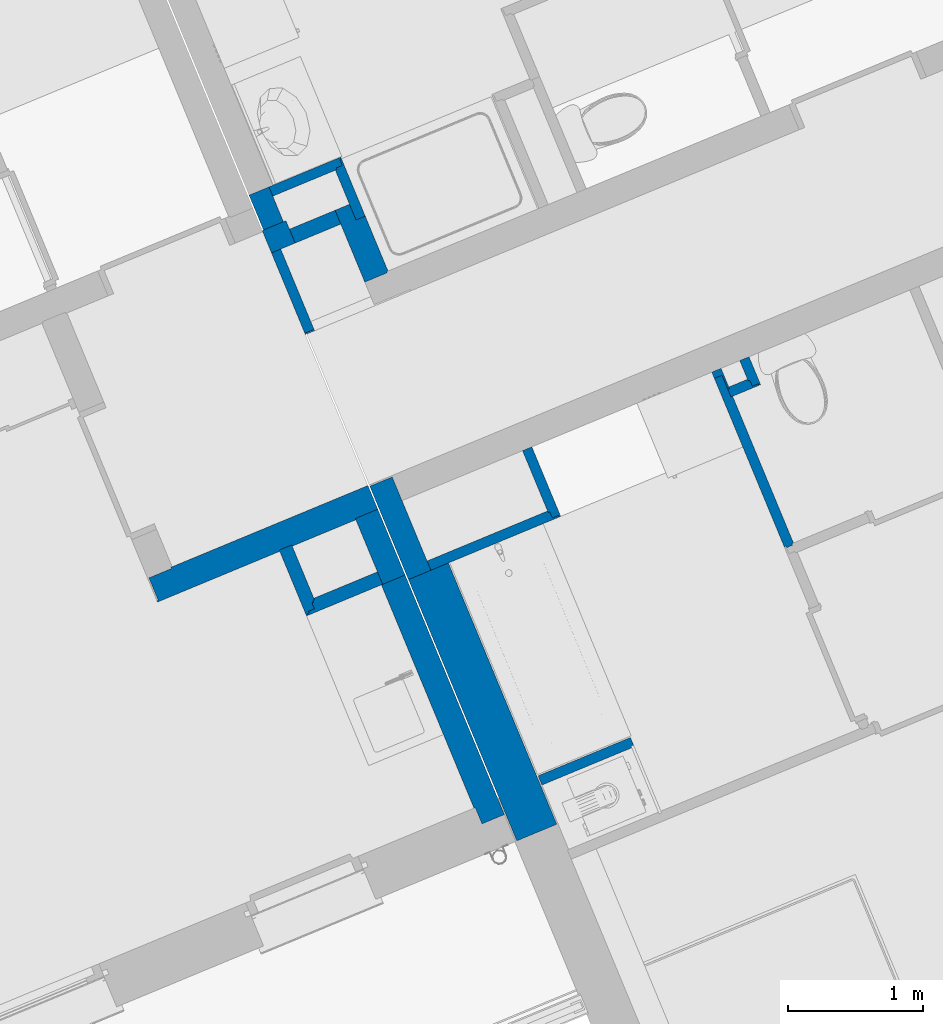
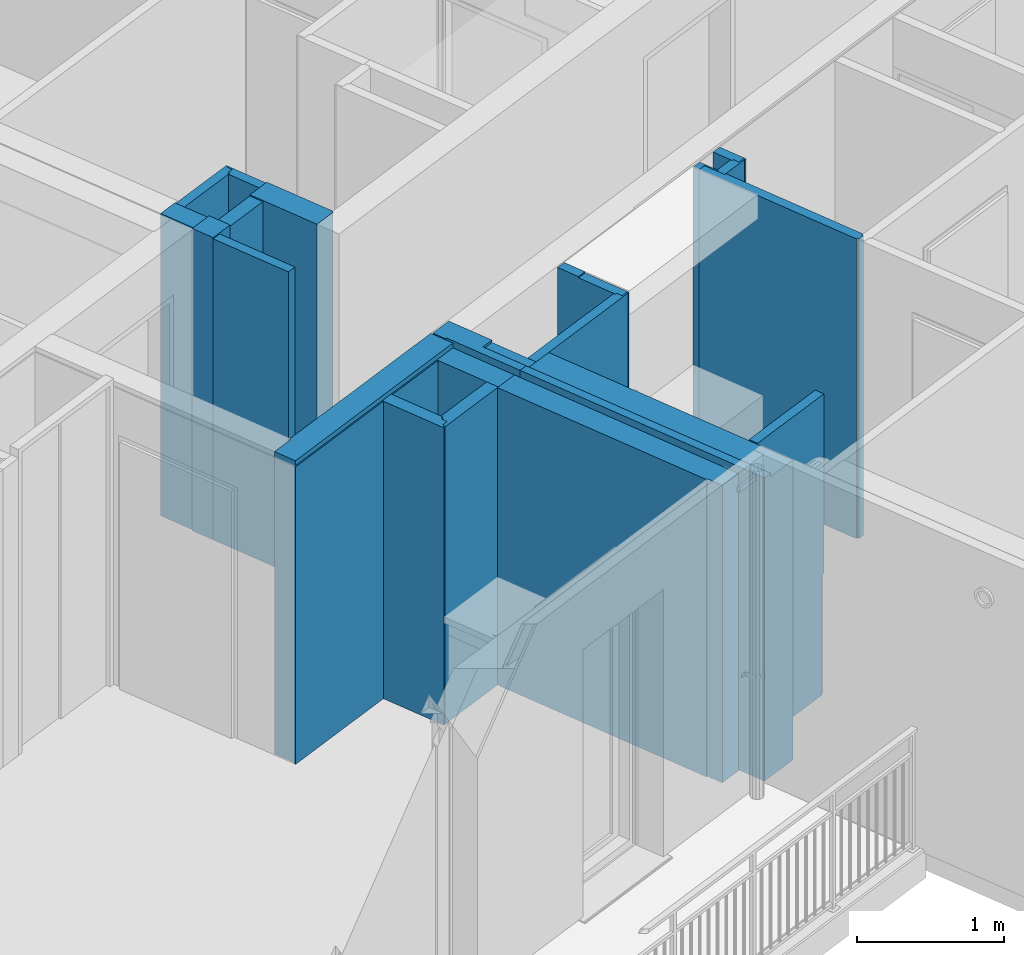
# One storey, part 41 of 90: 21 walls.
"""IFC2X3 building model written with IfcOpenShell, lengths in metres."""

from ifc_helpers import new_model, entity, si_unit, converted_unit, derived_unit, money_unit, direction, frame, origin_with_axes, place, context, subcontext, project, spatial, faceted_brep, material, material_list, type_object, element, save


model = new_model("IFC2X3")

# Units and contexts
model_context = context("Model", 3, precision=1e-05, world=origin_with_axes(), true_north=direction((0.0, 1.0)))
body_context = subcontext(model_context, "Body", "Model", "MODEL_VIEW")
ifc_project = project(units=[si_unit("LENGTHUNIT", "METRE"), si_unit("AREAUNIT", "SQUARE_METRE"), si_unit("VOLUMEUNIT", "CUBIC_METRE"), converted_unit("PLANEANGLEUNIT", "DEGREE", entity("IfcPlaneAngleMeasure", 0.0174532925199), si_unit("PLANEANGLEUNIT", "RADIAN"), dimensions=[0, 0, 0, 0, 0, 0, 0]), si_unit("SOLIDANGLEUNIT", "STERADIAN"), money_unit("EUR"), converted_unit("TIMEUNIT", "Year", entity("IfcTimeMeasure", 31556926.0), si_unit("TIMEUNIT", "SECOND"), dimensions=[0, 0, 1, 0, 0, 0, 0]), si_unit("MASSUNIT", "GRAM", prefix="KILO"), si_unit("THERMODYNAMICTEMPERATUREUNIT", "DEGREE_CELSIUS"), si_unit("LUMINOUSINTENSITYUNIT", "LUMEN"), si_unit("ENERGYUNIT", "JOULE", prefix="MEGA"), derived_unit("THERMALCONDUCTANCEUNIT", [(si_unit("POWERUNIT", "WATT"), 1), (si_unit("LENGTHUNIT", "METRE"), -1), (si_unit("THERMODYNAMICTEMPERATUREUNIT", "KELVIN"), -1)]), derived_unit("SPECIFICHEATCAPACITYUNIT", [(si_unit("ENERGYUNIT", "JOULE"), 1), (si_unit("MASSUNIT", "GRAM", prefix="KILO"), -1), (si_unit("THERMODYNAMICTEMPERATUREUNIT", "KELVIN"), -1)]), derived_unit("MASSDENSITYUNIT", [(si_unit("MASSUNIT", "GRAM", prefix="KILO"), 1), (si_unit("VOLUMEUNIT", "CUBIC_METRE"), -1)])], contexts=[model_context])

# Site, building, storey
site_placement = place(None, origin_with_axes())
site = spatial("IfcSite", under=ifc_project, at=site_placement, Name="Site", CompositionType="ELEMENT")
building_placement = place(site_placement, origin_with_axes())
building = spatial("IfcBuilding", under=site, at=building_placement, Name="Bâtiment", CompositionType="ELEMENT")
storey_placement = place(building_placement, frame((0.0, 0.0, 2.72), z_axis=(0.0, 0.0, 1.0), x_axis=(1.0, 0.0, 0.0)))
storey = spatial("IfcBuildingStorey", under=building, at=storey_placement, Name="R+1", CompositionType="ELEMENT", Elevation=2.72)

# Walls
ifc_material_1 = material(Name="Cloison - Carreaux de plâtre")
wall_type_1 = type_object("IfcWallType", Name="Cloison - Carreaux de plâtre 74", PredefinedType="USERDEFINED")
wall_1_placement = place(storey_placement, frame((-23.1735961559, -20.9432584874, 0.0), z_axis=(0.0, 0.0, 1.0), x_axis=(-0.383112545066, 0.923701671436, 0.0)))
element("IfcWall", 1, at=wall_1_placement, inside=storey, type_object=wall_type_1, material=ifc_material_1, Name="Carreaux de plâtre 8cm", ObjectType="PARTITIONING", context=body_context, shape_type="Brep", body=[
    faceted_brep([(0.0, -0.074, 0.15), (0.0, 0.0, 0.15), (-0.01, 0.0, 0.15), (-0.00999999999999, -0.074, 0.15), (0.0, 0.0, 2.5), (0.0, -0.074, 2.5), (0.644635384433, 0.0, 2.5), (0.644635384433, 0.0, 0.0), (-0.01, 0.0, 0.0), (-0.00999999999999, -0.074, 0.0), (0.644635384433, -0.074, 0.0), (0.644635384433, -0.074, 2.5)], [[[0, 1, 2, 3]], [[4, 1, 0, 5]], [[6, 7, 8, 2, 1, 4]], [[2, 8, 9, 3]], [[5, 0, 3, 9, 10, 11]], [[11, 6, 4, 5]], [[10, 7, 6, 11]], [[7, 10, 9, 8]]]),
])
ifc_material_2 = material(Name="Finition int - Plaque de plâtre")
ifc_material_3 = material(Name="Isolation - Laine de roche")
ifc_material_list_1 = material_list([ifc_material_2, ifc_material_3, ifc_material_2])
wall_type_2 = type_object("IfcWallType", Name="3 - Cloison 72mm Placostil 74", PredefinedType="USERDEFINED")
wall_2_placement = place(storey_placement, frame((-20.0063506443, -21.4094138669, 0.0), z_axis=(0.0, 0.0, 1.0), x_axis=(0.383112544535, -0.923701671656, 0.0)))
element("IfcWall", 2, at=wall_2_placement, inside=storey, type_object=wall_type_2, material=ifc_material_list_1, Name="Cloison Placostil 72/48", ObjectType="PARTITIONING", context=body_context, shape_type="Brep", body=[
    faceted_brep([(0.0, 0.0, 2.49), (1.17600000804, 0.0, 2.49), (1.17600000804, 0.0, 0.0), (0.0, 0.0, 0.0), (1.17600000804, -0.013, 2.49), (0.0, -0.013, 2.49), (1.17600000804, -0.013, 0.0), (0.0, -0.013, 0.0)], [[[0, 1, 2, 3]], [[4, 1, 0, 5]], [[1, 4, 6, 2]], [[6, 7, 3, 2]], [[5, 0, 3, 7]], [[4, 5, 7, 6]]]),
    faceted_brep([(-0.174, -0.013, 2.49), (1.18900000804, -0.013, 2.49), (1.18900000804, -0.013, 0.0), (-0.174, -0.013, 0.0), (1.18900000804, -0.060999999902, 2.49), (-0.174, -0.061, 2.49), (1.18900000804, -0.060999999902, 0.0), (-0.174, -0.061, 0.0)], [[[0, 1, 2, 3]], [[4, 1, 0, 5]], [[1, 4, 6, 2]], [[3, 2, 6, 7]], [[5, 0, 3, 7]], [[4, 5, 7, 6]]]),
    faceted_brep([(-0.174, -0.061, 2.49), (1.17600000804, -0.061, 2.49), (1.17600000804, -0.061, 0.0), (-0.174, -0.061, 0.0), (1.17600000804, -0.0739999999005, 2.49), (-0.174, -0.074, 2.49), (1.17600000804, -0.0739999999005, 0.0), (-0.174, -0.074, 0.0)], [[[0, 1, 2, 3]], [[4, 1, 0, 5]], [[1, 4, 6, 2]], [[3, 2, 6, 7]], [[5, 0, 3, 7]], [[4, 5, 7, 6]]]),
])
wall_3_placement = place(storey_placement, frame((-21.4466565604, -24.2195203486, 0.0), z_axis=(0.0, 0.0, 1.0), x_axis=(0.923701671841, 0.383112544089, 0.0)))
element("IfcWall", 3, at=wall_3_placement, inside=storey, type_object=wall_type_2, material=ifc_material_list_1, Name="Cloison Placostil 72/48", ObjectType="PARTITIONING", context=body_context, shape_type="Brep", body=[
    faceted_brep([(0.740000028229, 4.47035297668e-09, 2.49), (0.740000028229, -0.0130000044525, 2.49), (0.740000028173, -0.013, 0.0), (0.740000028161, 0.0, 0.0), (0.740000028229, 4.47035297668e-09, 1.0), (0.0, -0.013, 2.49), (0.0, 0.0, 2.49), (0.0, -0.013, 0.0), (0.0, 0.0, 0.0)], [[[0, 1, 2, 3, 4]], [[5, 1, 0, 6]], [[1, 5, 7, 2]], [[8, 3, 2, 7]], [[6, 0, 4, 3, 8]], [[5, 6, 8, 7]]]),
    faceted_brep([(0.740000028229, -0.0130000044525, 2.49), (0.740000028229, -0.0609999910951, 2.49), (0.740000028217, -0.061, 0.0), (0.740000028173, -0.013, 0.0), (0.0, -0.061, 2.49), (0.0, -0.013, 2.49), (0.0, -0.061, 0.0), (0.0, -0.013, 0.0)], [[[0, 1, 2, 3]], [[4, 1, 0, 5]], [[1, 4, 6, 2]], [[7, 3, 2, 6]], [[5, 0, 3, 7]], [[4, 5, 7, 6]]]),
    faceted_brep([(0.740000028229, -0.0609999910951, 2.49), (0.740000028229, -0.074, 2.49), (0.740000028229, -0.074, 1.0), (0.740000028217, -0.0609999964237, 1.0), (0.0, -0.074, 2.49), (0.0, -0.061, 2.49), (0.0, -0.074, 0.0), (0.720000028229, -0.074, 0.0), (0.720000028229, -0.074, 1.0), (0.720000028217, -0.0609999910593, 1.0), (0.720000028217, -0.061, 0.0), (0.0, -0.061, 0.0)], [[[0, 1, 2, 3]], [[4, 1, 0, 5]], [[1, 4, 6, 7, 8, 2]], [[9, 3, 2, 8]], [[5, 0, 3, 9, 10, 11]], [[4, 5, 11, 6]], [[11, 10, 7, 6]], [[9, 8, 7, 10]]]),
])
ifc_material_4 = material(Name="Finition int - Enduit plâtre")
ifc_material_5 = material(Name="Béton")
ifc_material_list_2 = material_list([ifc_material_4, ifc_material_5, ifc_material_4])
wall_type_3 = type_object("IfcWallType", Name="2 - Murs Béton 18 + Enduit 2 Faces 200", PredefinedType="USERDEFINED")
wall_4_placement = place(storey_placement, frame((-24.1618163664, -22.6847293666, 0.0), z_axis=(0.0, 0.0, 1.0), x_axis=(0.923701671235, 0.383112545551, 0.0)))
element("IfcWall", 4, at=wall_4_placement, inside=storey, type_object=wall_type_3, material=ifc_material_list_2, Name="M_Ext-008", ObjectType="SOLIDWALL", context=body_context, shape_type="Brep", body=[
    faceted_brep([(1.5800000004, 0.0, 2.51), (1.58000000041, 0.01, 2.51), (0.0, 0.01, 2.51), (0.0, 0.0, 2.51), (1.5800000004, 0.0, 0.0), (1.58000000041, 0.01, 0.0), (0.0, 0.01, 0.0), (0.0, 0.0, 0.0)], [[[0, 1, 2, 3]], [[1, 0, 4, 5]], [[1, 5, 6, 2]], [[7, 3, 2, 6]], [[4, 0, 3, 7]], [[5, 4, 7, 6]]]),
    faceted_brep([(1.58000000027, -0.18, 2.51), (1.5800000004, 0.0, 2.51), (-0.18, 0.0, 2.51), (-0.180000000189, -0.18, 2.51), (1.58000000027, -0.18, 0.0), (1.5800000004, 0.0, 0.0), (-0.18, 0.0, 0.0), (-0.180000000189, -0.18, 0.0)], [[[0, 1, 2, 3]], [[1, 0, 4, 5]], [[1, 5, 6, 2]], [[7, 3, 2, 6]], [[4, 0, 3, 7]], [[5, 4, 7, 6]]]),
    faceted_brep([(0.809999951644, -0.19, 0.0), (0.809999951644, -0.19, 0.02), (1.40000000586, -0.19, 0.02), (1.40000000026, -0.19, 2.47), (-0.190000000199, -0.19, 2.47), (-0.190000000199, -0.19, 0.0), (0.810000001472, -0.179999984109, 0.0), (0.810000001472, -0.179999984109, 0.02), (1.400000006, -0.179999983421, 0.02), (1.40000000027, -0.180000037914, 2.47), (-0.179999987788, -0.179999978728, 2.47), (-0.190000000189, -0.18, 2.47), (-0.190000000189, -0.18, 0.0)], [[[0, 1, 2, 3, 4, 5]], [[1, 0, 6, 7]], [[8, 2, 1, 7]], [[2, 8, 9, 3]], [[4, 3, 9, 10, 11]], [[4, 11, 12, 5]], [[6, 0, 5, 12]], [[7, 6, 12, 11, 10, 9, 8]]]),
])
wall_type_4 = type_object("IfcWallType", Name="3 - Cloison Gaine Technique 72mm 74", PredefinedType="USERDEFINED")
wall_5_placement = place(storey_placement, frame((-19.7994086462, -21.323583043, 0.0), z_axis=(0.0, 0.0, 1.0), x_axis=(-0.923701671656, -0.383112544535, 0.0)))
element("IfcWall", 5, at=wall_5_placement, inside=storey, type_object=wall_type_4, material=ifc_material_list_1, Name="Cloison Placostil 72/48", ObjectType="PARTITIONING", context=body_context, shape_type="Brep", body=[
    faceted_brep([(0.013, -0.013, 2.49), (0.013, 0.0, 2.49), (0.013, 0.0, 0.0), (0.013, -0.013, 0.0), (0.237035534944, 0.0, 2.49), (0.237035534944, -0.013, 2.49), (0.237035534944, 0.0, 0.0), (0.237035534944, -0.013, 0.0)], [[[0, 1, 2, 3]], [[4, 1, 0, 5]], [[1, 4, 6, 2]], [[2, 6, 7, 3]], [[5, 0, 3, 7]], [[4, 5, 7, 6]]]),
    faceted_brep([(0.061, -0.061, 2.49), (0.061, -0.013, 2.49), (0.061, -0.013, 0.0), (0.061, -0.061, 0.0), (0.237035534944, -0.013, 2.49), (0.237035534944, -0.061, 2.49), (0.237035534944, -0.013, 0.0), (0.237035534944, -0.061, 0.0)], [[[0, 1, 2, 3]], [[4, 1, 0, 5]], [[1, 4, 6, 2]], [[2, 6, 7, 3]], [[5, 0, 3, 7]], [[4, 5, 7, 6]]]),
    faceted_brep([(0.074, -0.074, 2.49), (0.074, -0.061, 2.49), (0.074, -0.061, 0.0), (0.074, -0.074, 0.0), (0.224035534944, -0.061, 2.49), (0.224035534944, -0.074, 2.49), (0.224035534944, -0.061, 0.0), (0.224035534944, -0.074, 0.0)], [[[0, 1, 2, 3]], [[4, 1, 0, 5]], [[1, 4, 6, 2]], [[2, 6, 7, 3]], [[5, 0, 3, 7]], [[4, 5, 7, 6]]]),
])
wall_6_placement = place(storey_placement, frame((-23.5869322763, -19.9205844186, 0.0), z_axis=(0.0, 0.0, 1.0), x_axis=(0.923701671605, 0.383112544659, 0.0)))
element("IfcWall", 6, at=wall_6_placement, inside=storey, type_object=wall_type_4, material=ifc_material_list_1, Name="Cloison Placostil 72/48", ObjectType="PARTITIONING", context=body_context, shape_type="Brep", body=[
    faceted_brep([(0.735366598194, 0.0, 2.5), (0.16, -2.26545893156e-10, 2.5), (0.160000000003, -0.013, 2.5), (0.735366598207, -0.013, 2.5), (0.735366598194, 0.0, 0.0), (0.16, -2.26545893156e-10, 0.0), (0.160000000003, -0.013, 0.0), (0.735366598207, -0.013, 0.0)], [[[0, 1, 2, 3]], [[4, 5, 1, 0]], [[5, 6, 2, 1]], [[3, 2, 6, 7]], [[4, 0, 3, 7]], [[7, 6, 5, 4]]]),
    faceted_brep([(0.722366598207, -0.013, 2.5), (0.160000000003, -0.013, 2.5), (0.160000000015, -0.061, 2.5), (0.722366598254, -0.061, 2.5), (0.722366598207, -0.013, 0.0), (0.160000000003, -0.013, 0.0), (0.160000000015, -0.061, 0.0), (0.722366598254, -0.061, 0.0)], [[[0, 1, 2, 3]], [[4, 5, 1, 0]], [[5, 6, 2, 1]], [[3, 2, 6, 7]], [[4, 0, 3, 7]], [[7, 6, 5, 4]]]),
    faceted_brep([(0.674366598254, -0.061, 2.5), (0.160000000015, -0.061, 2.5), (0.160000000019, -0.074, 2.5), (0.674366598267, -0.074, 2.5), (0.674366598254, -0.061, 0.0), (0.160000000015, -0.061, 0.0), (0.160000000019, -0.074, 0.0), (0.674366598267, -0.074, 0.0)], [[[0, 1, 2, 3]], [[4, 5, 1, 0]], [[5, 6, 2, 1]], [[3, 2, 6, 7]], [[4, 0, 3, 7]], [[7, 6, 5, 4]]]),
])
wall_7_placement = place(storey_placement, frame((-20.0921678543, -21.2025046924, 0.0), z_axis=(0.0, 0.0, 1.0), x_axis=(0.383112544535, -0.923701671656, 0.0)))
element("IfcWall", 7, at=wall_7_placement, inside=storey, type_object=wall_type_4, material=ifc_material_list_1, Name="Cloison Placostil 72/48", ObjectType="PARTITIONING", context=body_context, shape_type="Brep", body=[
    faceted_brep([(0.0, 0.0, 2.49), (0.163, 0.0, 2.49), (0.163, 0.0, 0.0), (0.0, 0.0, 0.0), (0.163, -0.013, 2.49), (0.0, -0.013, 2.49), (0.163, -0.013, 0.0), (0.0, -0.013, 0.0)], [[[0, 1, 2, 3]], [[4, 1, 0, 5]], [[1, 4, 6, 2]], [[3, 2, 6, 7]], [[5, 0, 3, 7]], [[4, 5, 7, 6]]]),
    faceted_brep([(0.0, -0.013, 2.49), (0.05, -0.013, 2.49), (0.05, -0.013, 0.0), (0.0, -0.013, 0.0), (0.05, -0.061, 2.49), (0.0, -0.061, 2.49), (0.05, -0.061, 0.0), (0.0, -0.061, 0.0)], [[[0, 1, 2, 3]], [[4, 1, 0, 5]], [[1, 4, 6, 2]], [[3, 2, 6, 7]], [[5, 0, 3, 7]], [[4, 5, 7, 6]]]),
    faceted_brep([(0.0, -0.061, 2.49), (0.05, -0.061, 2.49), (0.05, -0.061, 0.0), (0.0, -0.061, 0.0), (0.05, -0.074, 2.49), (0.0, -0.074, 2.49), (0.05, -0.074, 0.0), (0.0, -0.074, 0.0)], [[[0, 1, 2, 3]], [[4, 1, 0, 5]], [[1, 4, 6, 2]], [[3, 2, 6, 7]], [[5, 0, 3, 7]], [[4, 5, 7, 6]]]),
])
wall_8_placement = place(storey_placement, frame((-22.240334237, -22.6974573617, 0.0), z_axis=(0.0, 0.0, 1.0), x_axis=(0.923701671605, 0.383112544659, 0.0)))
element("IfcWall", 8, at=wall_8_placement, inside=storey, type_object=wall_type_4, material=ifc_material_list_1, Name="Cloison Placostil 72/48", ObjectType="PARTITIONING", context=body_context, shape_type="Brep", body=[
    faceted_brep([(0.96600000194, 0.074, 2.49), (0.966000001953, 0.061, 2.49), (0.966000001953, 0.061, 0.0), (0.96600000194, 0.074, 0.0), (0.0, 0.061, 2.49), (0.0, 0.074, 2.49), (0.0, 0.061, 0.0), (0.0, 0.074, 0.0)], [[[0, 1, 2, 3]], [[4, 1, 0, 5]], [[1, 4, 6, 2]], [[3, 2, 6, 7]], [[5, 0, 3, 7]], [[4, 5, 7, 6]]]),
    faceted_brep([(0.979000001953, 0.061, 2.49), (0.979000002, 0.013, 2.49), (0.979000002, 0.013, 0.0), (0.979000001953, 0.061, 0.0), (0.0, 0.013, 2.49), (0.0, 0.061, 2.49), (0.0, 0.013, 0.0), (0.0, 0.061, 0.0)], [[[0, 1, 2, 3]], [[4, 1, 0, 5]], [[1, 4, 6, 2]], [[3, 2, 6, 7]], [[5, 0, 3, 7]], [[4, 5, 7, 6]]]),
    faceted_brep([(1.027000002, 0.013, 2.49), (1.02700000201, 0.0, 2.49), (1.02700000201, 0.0, 0.0), (1.027000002, 0.013, 0.0), (0.0, 0.0, 2.49), (0.0, 0.013, 2.49), (0.0, 0.0, 0.0), (0.0, 0.013, 0.0)], [[[0, 1, 2, 3]], [[4, 1, 0, 5]], [[1, 4, 6, 2]], [[3, 2, 6, 7]], [[5, 0, 3, 7]], [[4, 5, 7, 6]]]),
])
wall_9_placement = place(storey_placement, frame((-19.8852258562, -21.1166738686, 0.0), z_axis=(0.0, 0.0, 1.0), x_axis=(0.383112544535, -0.923701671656, 0.0)))
element("IfcWall", 9, at=wall_9_placement, inside=storey, type_object=wall_type_4, material=ifc_material_list_1, Name="Cloison Placostil 72/48", ObjectType="PARTITIONING", context=body_context, shape_type="Brep", body=[
    faceted_brep([(0.0, 0.0, 2.49), (0.224, 0.0, 2.49), (0.224, 0.0, 0.0), (0.0, 0.0, 0.0), (0.224, -0.013, 2.49), (0.0, -0.013, 2.49), (0.224, -0.013, 0.0), (0.0, -0.013, 0.0)], [[[0, 1, 2, 3]], [[4, 1, 0, 5]], [[1, 4, 6, 2]], [[2, 6, 7, 3]], [[5, 0, 3, 7]], [[4, 5, 7, 6]]]),
    faceted_brep([(0.0, -0.013, 2.49), (0.211, -0.013, 2.49), (0.211, -0.013, 0.0), (0.0, -0.013, 0.0), (0.211, -0.061, 2.49), (0.0, -0.061, 2.49), (0.211, -0.061, 0.0), (0.0, -0.061, 0.0)], [[[0, 1, 2, 3]], [[4, 1, 0, 5]], [[1, 4, 6, 2]], [[2, 6, 7, 3]], [[5, 0, 3, 7]], [[4, 5, 7, 6]]]),
    faceted_brep([(0.0, -0.061, 2.49), (0.163, -0.061, 2.49), (0.163, -0.061, 0.0), (0.0, -0.061, 0.0), (0.163, -0.074, 2.49), (0.0, -0.074, 2.49), (0.163, -0.074, 0.0), (0.0, -0.074, 0.0)], [[[0, 1, 2, 3]], [[4, 1, 0, 5]], [[1, 4, 6, 2]], [[2, 6, 7, 3]], [[5, 0, 3, 7]], [[4, 5, 7, 6]]]),
])
wall_10_placement = place(storey_placement, frame((-21.2796844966, -22.2990203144, 0.0), z_axis=(0.0, 0.0, 1.0), x_axis=(-0.383112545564, 0.923701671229, 0.0)))
element("IfcWall", 10, at=wall_10_placement, inside=storey, type_object=wall_type_4, material=ifc_material_list_1, Name="Cloison Placostil 72/48", ObjectType="PARTITIONING", context=body_context, shape_type="Brep", body=[
    faceted_brep([(0.3779007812, 0.061, 2.5), (0.377900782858, 0.061, 2.49), (0.0610000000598, 0.061, 2.49), (0.0610000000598, 0.061, 0.0), (0.55790079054, 0.061, 0.0), (0.55790079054, 0.061, 2.5), (0.377900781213, 0.074, 2.5), (0.377900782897, 0.074, 2.49), (0.0610000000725, 0.074, 2.49), (0.0610000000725, 0.074, 0.0), (0.55790079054, 0.074, 0.0), (0.55790079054, 0.074, 2.5)], [[[0, 1, 2, 3, 4, 5]], [[1, 0, 6, 7]], [[8, 2, 1, 7]], [[2, 8, 9, 3]], [[9, 10, 4, 3]], [[4, 10, 11, 5]], [[6, 0, 5, 11]], [[7, 6, 11, 10, 9, 8]]]),
    faceted_brep([(0.377900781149, 0.013, 2.5), (0.377900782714, 0.013, 2.49), (0.0130000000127, 0.013, 2.49), (0.0130000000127, 0.013, 0.0), (0.55790079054, 0.013, 0.0), (0.55790079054, 0.013, 2.5), (0.3779007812, 0.061, 2.5), (0.377900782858, 0.061, 2.49), (0.0130000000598, 0.061, 2.49), (0.0130000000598, 0.061, 0.0), (0.55790079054, 0.061, 0.0), (0.55790079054, 0.061, 2.5)], [[[0, 1, 2, 3, 4, 5]], [[1, 0, 6, 7]], [[8, 2, 1, 7]], [[2, 8, 9, 3]], [[9, 10, 4, 3]], [[4, 10, 11, 5]], [[6, 0, 5, 11]], [[7, 6, 11, 10, 9, 8]]]),
    faceted_brep([(0.377900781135, 0.0, 2.5), (0.377900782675, 0.0, 2.49), (0.0, 0.0, 2.49), (0.0, 0.0, 0.0), (0.55790079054, 0.0, 0.0), (0.55790079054, 0.0, 2.5), (0.377900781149, 0.013, 2.5), (0.377900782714, 0.013, 2.49), (0.0, 0.013, 2.49), (0.0, 0.013, 0.0), (0.55790079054, 0.013, 0.0), (0.55790079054, 0.013, 2.5)], [[[0, 1, 2, 3, 4, 5]], [[1, 0, 6, 7]], [[8, 2, 1, 7]], [[2, 8, 9, 3]], [[9, 10, 4, 3]], [[4, 10, 11, 5]], [[6, 0, 5, 11]], [[7, 6, 11, 10, 9, 8]]]),
])
wall_11_placement = place(storey_placement, frame((-22.9076729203, -19.6388562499, 0.0), z_axis=(0.0, 0.0, 1.0), x_axis=(0.383112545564, -0.923701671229, 0.0)))
element("IfcWall", 11, at=wall_11_placement, inside=storey, type_object=wall_type_4, material=ifc_material_list_1, Name="Cloison Placostil 72/48", ObjectType="PARTITIONING", context=body_context, shape_type="Brep", body=[
    faceted_brep([(0.0129999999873, -0.013, 2.5), (0.472999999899, -0.013, 2.5), (0.472999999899, 0.0, 2.5), (0.013, 0.0, 2.5), (0.0129999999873, -0.013, 0.0), (0.472999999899, -0.013, 0.0), (0.472999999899, 0.0, 0.0), (0.013, 0.0, 0.0)], [[[0, 1, 2, 3]], [[4, 5, 1, 0]], [[2, 1, 5, 6]], [[3, 2, 6, 7]], [[4, 0, 3, 7]], [[7, 6, 5, 4]]]),
    faceted_brep([(0.0609999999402, -0.061, 2.5), (0.472999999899, -0.061, 2.5), (0.472999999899, -0.013, 2.5), (0.0609999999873, -0.013, 2.5), (0.0609999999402, -0.061, 0.0), (0.472999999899, -0.061, 0.0), (0.472999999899, -0.013, 0.0), (0.0609999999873, -0.013, 0.0)], [[[0, 1, 2, 3]], [[4, 5, 1, 0]], [[2, 1, 5, 6]], [[3, 2, 6, 7]], [[4, 0, 3, 7]], [[7, 6, 5, 4]]]),
    faceted_brep([(0.0739999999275, -0.074, 2.5), (0.472999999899, -0.074, 2.5), (0.472999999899, -0.061, 2.5), (0.0739999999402, -0.061, 2.5), (0.0739999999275, -0.074, 0.0), (0.472999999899, -0.074, 0.0), (0.472999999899, -0.061, 0.0), (0.0739999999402, -0.061, 0.0)], [[[0, 1, 2, 3]], [[4, 5, 1, 0]], [[2, 1, 5, 6]], [[3, 2, 6, 7]], [[4, 0, 3, 7]], [[7, 6, 5, 4]]]),
])
ifc_material_list_3 = material_list([ifc_material_4, ifc_material_5])
wall_type_5 = type_object("IfcWallType", Name="2 - Murs Béton 18 + Enduit 1 Face 190", PredefinedType="USERDEFINED")
wall_12_placement = place(storey_placement, frame((-22.9500964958, -20.0325089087, 0.0), z_axis=(0.0, 0.0, 1.0), x_axis=(0.38311254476, -0.923701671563, 0.0)))
element("IfcWall", 12, at=wall_12_placement, inside=storey, type_object=wall_type_5, material=ifc_material_list_3, Name="M_Ext-008", ObjectType="SOLIDWALL", context=body_context, shape_type="Brep", body=[
    faceted_brep([(0.565635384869, 0.18, 2.50999999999), (0.565635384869, 0.18, 0.0), (0.565635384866, 0.19, 0.0), (0.565635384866, 0.19, 2.50999999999), (0.0, 0.18, 0.0), (0.0, 0.18, 2.51), (0.0, 0.19, 0.0), (0.0, 0.19, 2.51)], [[[0, 1, 2, 3]], [[4, 1, 0, 5]], [[6, 2, 1, 4]], [[3, 2, 6, 7]], [[5, 0, 3, 7]], [[4, 5, 7, 6]]]),
    faceted_brep([(0.575635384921, 0.0, 2.51), (0.575635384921, 0.0, 0.0), (0.575635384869, 0.18, 0.0), (0.575635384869, 0.18, 2.50999999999), (0.0, 0.0, 0.0), (0.0, 0.0, 2.51), (0.0, 0.18, 0.0), (0.0, 0.18, 2.51)], [[[0, 1, 2, 3]], [[4, 1, 0, 5]], [[6, 2, 1, 4]], [[3, 2, 6, 7]], [[5, 0, 3, 7]], [[4, 5, 7, 6]]]),
])
ifc_material_list_4 = material_list([ifc_material_5, ifc_material_4])
wall_13_placement = place(storey_placement, frame((-22.4313350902, -22.7328834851, 0.0), z_axis=(0.0, 0.0, 1.0), x_axis=(0.383112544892, -0.923701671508, 0.0)))
element("IfcWall", 13, at=wall_13_placement, inside=storey, type_object=wall_type_5, material=ifc_material_list_4, Name="M_Ext-008", ObjectType="SOLIDWALL", context=body_context, shape_type="Brep", body=[
    faceted_brep([(0.0, 0.0, 2.47), (1.91999997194, -1.78814119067e-08, 2.47), (1.91999997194, -1.78814190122e-08, 0.0), (0.0, 0.0, 0.0), (1.91999997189, -0.18, 2.47), (0.0, -0.18, 2.47), (1.91999997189, -0.18, 0.0), (0.0, -0.18, 0.0)], [[[0, 1, 2, 3]], [[4, 1, 0, 5]], [[1, 4, 6, 2]], [[3, 2, 6, 7]], [[5, 0, 3, 7]], [[4, 5, 7, 6]]]),
    faceted_brep([(2.05151532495, -1.78814154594e-08, 2.47), (2.05151532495, -1.77046359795e-08, 2.52), (2.07199997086, -1.78814154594e-08, 2.52), (2.07199997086, -1.78814119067e-08, 2.48000000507), (2.05199997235, -1.78814119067e-08, 2.48000000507), (2.05199997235, -1.78814119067e-08, 2.47000000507), (2.0515153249, -0.18, 2.52), (2.0515153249, -0.18, 2.47), (2.07199997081, -0.18, 2.52), (2.07199997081, -0.18, 2.48000000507), (2.0519999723, -0.18, 2.48000000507), (2.0519999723, -0.18, 2.47000000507)], [[[0, 1, 2, 3, 4, 5]], [[6, 1, 0, 7]], [[1, 6, 8, 2]], [[9, 3, 2, 8]], [[4, 3, 9, 10]], [[11, 5, 4, 10]], [[7, 0, 5, 11]], [[6, 7, 11, 10, 9, 8]]]),
    faceted_brep([(0.0, -0.18, 2.47), (1.78999997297, -0.18, 2.47), (1.78999997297, -0.18, 0.0), (0.0, -0.18, 0.0), (1.78999997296, -0.19, 2.47), (0.0, -0.19, 2.47), (1.78999997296, -0.19, 0.0), (0.0, -0.19, 0.0)], [[[0, 1, 2, 3]], [[4, 1, 0, 5]], [[1, 4, 6, 2]], [[3, 2, 6, 7]], [[5, 0, 3, 7]], [[4, 5, 7, 6]]]),
    faceted_brep([(2.0515153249, -0.18, 2.47), (2.0515153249, -0.18, 2.52), (2.05199998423, -0.18, 2.52), (2.0519999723, -0.18, 2.47000000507), (2.05151532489, -0.19, 2.52), (2.05151532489, -0.19, 2.47), (2.05199998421, -0.19, 2.52), (2.0519999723, -0.19, 2.47000000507)], [[[0, 1, 2, 3]], [[4, 1, 0, 5]], [[1, 4, 6, 2]], [[3, 2, 6, 7]], [[5, 0, 3, 7]], [[4, 5, 7, 6]]]),
])
wall_14_placement = place(storey_placement, frame((-23.4800102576, -20.178378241, 0.0), z_axis=(0.0, 0.0, 1.0), x_axis=(0.383112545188, -0.923701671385, 0.0)))
element("IfcWall", 14, at=wall_14_placement, inside=storey, type_object=wall_type_5, material=ifc_material_list_4, Name="M_Ext-008", ObjectType="SOLIDWALL", context=body_context, shape_type="Brep", body=[
    faceted_brep([(0.179276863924, 0.0, 2.5099999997), (0.179276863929, 0.0, 2.5), (0.179276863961, 0.18, 2.5), (0.179276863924, 0.18, 2.5099999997), (0.0, 0.0, 0.0), (0.179276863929, 0.0, 0.0), (0.0, 0.0, 2.51), (0.179276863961, 0.18, 0.0), (0.0, 0.18, 0.0), (0.0, 0.18, 2.51)], [[[0, 1, 2, 3]], [[4, 5, 1, 0, 6]], [[5, 7, 2, 1]], [[3, 2, 7, 8, 9]], [[6, 0, 3, 9]], [[8, 7, 5, 4]], [[8, 4, 6, 9]]]),
    faceted_brep([(0.179276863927, -0.01, 2.5), (0.179276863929, 0.0, 2.5), (0.179276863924, 0.0, 2.5099999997), (0.179276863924, -0.01, 2.5099999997), (0.179276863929, 0.0, 0.0), (0.179276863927, -0.01, 0.0), (0.0, 0.0, 0.0), (0.0, 0.0, 2.51), (0.0, -0.01, 2.51), (0.0, -0.01, 0.0)], [[[0, 1, 2, 3]], [[4, 1, 0, 5]], [[1, 4, 6, 7, 2]], [[3, 2, 7, 8]], [[5, 0, 3, 8, 9]], [[4, 5, 9, 6]], [[9, 8, 7, 6]]]),
])
wall_type_6 = type_object("IfcWallType", Name="Béton 180", PredefinedType="USERDEFINED")
wall_15_placement = place(storey_placement, frame((-22.6931307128, -22.0755804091, 0.0), z_axis=(0.0, 0.0, 1.0), x_axis=(0.383112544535, -0.923701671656, 0.0)))
element("IfcWall", 15, at=wall_15_placement, inside=storey, type_object=wall_type_6, material=ifc_material_5, Name="M_Ext-008", ObjectType="SOLIDWALL", context=body_context, shape_type="Brep", body=[
    faceted_brep([(0.0, 0.18, 0.0), (0.0, 0.18, 2.51), (0.370000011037, 0.18, 2.51), (0.370000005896, 0.18, 2.49), (0.747900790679, 0.18, 2.49), (0.747900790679, 0.18, 0.0), (0.0, 0.0, 0.0), (0.0, 1.72057923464e-10, 2.51), (0.112000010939, 0.0680000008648, 2.51), (0.37000001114, 0.0680000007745, 2.51), (0.114515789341, 2.24726903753e-10, 2.51), (0.370000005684, 0.0680000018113, 2.49), (0.747900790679, 0.0680000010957, 2.49), (0.747900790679, 0.0680000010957, 2.52), (0.747900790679, 0.0, 2.52), (0.747900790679, 0.0, 0.0), (0.114515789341, 2.24726903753e-10, 2.52), (0.112000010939, 0.0680000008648, 2.52)], [[[0, 1, 2, 3, 4, 5]], [[6, 7, 1, 0]], [[8, 9, 2, 1, 7, 10]], [[3, 2, 9, 11]], [[11, 12, 4, 3]], [[4, 12, 13, 14, 15, 5]], [[5, 15, 6, 0]], [[16, 10, 7, 6, 15, 14]], [[11, 9, 8, 17, 13, 12]], [[10, 16, 17, 8]], [[13, 17, 16, 14]]]),
])
wall_16_placement = place(storey_placement, frame((-22.7023677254, -22.0794115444, 0.0), z_axis=(0.0, 0.0, 1.0), x_axis=(0.383112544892, -0.923701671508, 0.0)))
element("IfcWall", 16, at=wall_16_placement, inside=storey, type_object=wall_type_6, material=ifc_material_5, Name="M_Ext-008", ObjectType="SOLIDWALL", context=body_context, shape_type="Brep", body=[
    faceted_brep([(0.18, 0.0, 0.0), (0.180000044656, -2.30402363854e-08, 2.47), (0.707449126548, 0.0, 2.47), (0.707449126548, 0.0, 0.0), (0.180000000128, -0.18, 0.0), (0.180000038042, -0.18, 2.47), (0.707449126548, -0.18, 2.47), (0.707449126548, -0.18, 0.0)], [[[0, 1, 2, 3]], [[4, 5, 1, 0]], [[5, 6, 2, 1]], [[3, 2, 6, 7]], [[3, 7, 4, 0]], [[7, 6, 5, 4]]]),
])
ifc_material_list_5 = material_list([ifc_material_2, ifc_material_2, ifc_material_3, ifc_material_2, ifc_material_2])
wall_type_7 = type_object("IfcWallType", Name="3 - Cloison Gaine Technique 98mm 100", PredefinedType="USERDEFINED")
wall_17_placement = place(storey_placement, frame((-23.1610594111, -23.0355423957, 0.0), z_axis=(0.0, 0.0, 1.0), x_axis=(0.92370167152, 0.383112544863, 0.0)))
element("IfcWall", 17, at=wall_17_placement, inside=storey, type_object=wall_type_7, material=ifc_material_list_5, Name="Cloison 98 isolée", ObjectType="PARTITIONING", context=body_context, shape_type="Brep", body=[
    faceted_brep([(0.610000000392, 0.1, 2.47), (0.610000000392, 0.087, 2.47), (0.610000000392, 0.087, 0.0), (0.610000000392, 0.1, 0.0), (0.100000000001, 0.087, 2.47), (0.100000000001, 0.1, 2.47), (0.100000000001, 0.087, 0.0), (0.100000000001, 0.1, 0.0)], [[[0, 1, 2, 3]], [[4, 1, 0, 5]], [[1, 4, 6, 2]], [[7, 3, 2, 6]], [[5, 0, 3, 7]], [[4, 5, 7, 6]]]),
    faceted_brep([(0.610000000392, 0.087, 2.47), (0.610000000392, 0.074, 2.47), (0.610000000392, 0.074, 0.0), (0.610000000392, 0.087, 0.0), (0.0870000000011, 0.074, 2.47), (0.0870000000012, 0.087, 2.47), (0.0870000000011, 0.074, 0.0), (0.0870000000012, 0.087, 0.0)], [[[0, 1, 2, 3]], [[4, 1, 0, 5]], [[1, 4, 6, 2]], [[7, 3, 2, 6]], [[5, 0, 3, 7]], [[4, 5, 7, 6]]]),
    faceted_brep([(0.610000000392, 0.074, 2.47), (0.610000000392, 0.026, 2.47), (0.610000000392, 0.026, 0.0), (0.610000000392, 0.074, 0.0), (0.0740000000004, 0.026, 2.47), (0.0740000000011, 0.074, 2.47), (0.0740000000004, 0.026, 0.0), (0.0740000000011, 0.074, 0.0)], [[[0, 1, 2, 3]], [[4, 1, 0, 5]], [[1, 4, 6, 2]], [[7, 3, 2, 6]], [[5, 0, 3, 7]], [[4, 5, 7, 6]]]),
    faceted_brep([(0.610000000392, 0.026, 2.47), (0.610000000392, 0.013, 2.47), (0.610000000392, 0.013, 0.0), (0.610000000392, 0.026, 0.0), (0.0260000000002, 0.013, 2.47), (0.0260000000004, 0.026, 2.47), (0.0260000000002, 0.013, 0.0), (0.0260000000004, 0.026, 0.0)], [[[0, 1, 2, 3]], [[4, 1, 0, 5]], [[1, 4, 6, 2]], [[7, 3, 2, 6]], [[5, 0, 3, 7]], [[4, 5, 7, 6]]]),
    faceted_brep([(0.610000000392, 0.013, 2.47), (0.610000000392, 0.0, 2.47), (0.610000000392, 0.0, 0.0), (0.610000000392, 0.013, 0.0), (0.013, 0.0, 2.47), (0.0130000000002, 0.013, 2.47), (0.013, 0.0, 0.0), (0.0130000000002, 0.013, 0.0)], [[[0, 1, 2, 3]], [[4, 1, 0, 5]], [[1, 4, 6, 2]], [[7, 3, 2, 6]], [[5, 0, 3, 7]], [[4, 5, 7, 6]]]),
])
wall_18_placement = place(storey_placement, frame((-23.363131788, -22.5483367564, 0.0), z_axis=(0.0, 0.0, 1.0), x_axis=(0.38311254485, -0.923701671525, 0.0)))
element("IfcWall", 18, at=wall_18_placement, inside=storey, type_object=wall_type_7, material=ifc_material_list_5, Name="Cloison 98 isolée", ObjectType="PARTITIONING", context=body_context, shape_type="Brep", body=[
    faceted_brep([(1.87335817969e-08, 0.1, 2.47), (0.440449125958, 0.1, 2.47), (0.440449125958, 0.1, 0.0), (0.0, 0.1, 0.0), (0.440449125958, 0.087, 2.47), (1.82564754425e-08, 0.087, 2.47), (0.440449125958, 0.087, 0.0), (0.0, 0.087, 0.0)], [[[0, 1, 2, 3]], [[4, 1, 0, 5]], [[1, 4, 6, 2]], [[2, 6, 7, 3]], [[5, 0, 3, 7]], [[4, 5, 7, 6]]]),
    faceted_brep([(1.82564754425e-08, 0.087, 2.47), (0.453449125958, 0.087, 2.47), (0.453449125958, 0.087, 0.0), (0.0, 0.087, 0.0), (0.453449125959, 0.074, 2.47), (1.77793708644e-08, 0.074, 2.47), (0.453449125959, 0.074, 0.0), (0.0, 0.074, 0.0)], [[[0, 1, 2, 3]], [[4, 1, 0, 5]], [[1, 4, 6, 2]], [[2, 6, 7, 3]], [[5, 0, 3, 7]], [[4, 5, 7, 6]]]),
    faceted_brep([(1.77793708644e-08, 0.074, 2.47), (0.501449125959, 0.074, 2.47), (0.501449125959, 0.074, 0.0), (0.0, 0.074, 0.0), (0.501449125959, 0.026, 2.47), (1.60177631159e-08, 0.026, 2.47), (0.501449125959, 0.026, 0.0), (0.0, 0.026, 0.0)], [[[0, 1, 2, 3]], [[4, 1, 0, 5]], [[1, 4, 6, 2]], [[2, 6, 7, 3]], [[5, 0, 3, 7]], [[4, 5, 7, 6]]]),
    faceted_brep([(1.60177631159e-08, 0.026, 2.47), (0.514449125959, 0.026, 2.47), (0.514449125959, 0.026, 0.0), (0.0, 0.026, 0.0), (0.51444912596, 0.013, 2.47), (1.55406603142e-08, 0.013, 2.47), (0.51444912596, 0.013, 0.0), (0.0, 0.013, 0.0)], [[[0, 1, 2, 3]], [[4, 1, 0, 5]], [[1, 4, 6, 2]], [[2, 6, 7, 3]], [[5, 0, 3, 7]], [[4, 5, 7, 6]]]),
    faceted_brep([(1.55406603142e-08, 0.013, 2.47), (0.52744912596, 0.013, 2.47), (0.52744912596, 0.013, 0.0), (0.0, 0.013, 0.0), (0.52744912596, 0.0, 2.47), (1.50635610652e-08, 0.0, 2.47), (0.52744912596, 0.0, 0.0), (0.0, 0.0, 0.0)], [[[0, 1, 2, 3]], [[4, 1, 0, 5]], [[1, 4, 6, 2]], [[2, 6, 7, 3]], [[5, 0, 3, 7]], [[4, 5, 7, 6]]]),
])
ifc_material_6 = material(Name="Isolation - Polystyrène extrudé")
ifc_material_7 = material(Name="Divers - Vide")
ifc_material_list_6 = material_list([ifc_material_2, ifc_material_6, ifc_material_7, ifc_material_5])
wall_type_8 = type_object("IfcWallType", Name="2 - Murs Béton 18 + isolant 100 320", PredefinedType="USERDEFINED")
wall_19_placement = place(storey_placement, frame((-22.4066005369, -22.7664176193, 0.0), z_axis=(0.0, 0.0, 1.0), x_axis=(0.383112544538, -0.923701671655, 0.0)))
element("IfcWall", 19, at=wall_19_placement, inside=storey, type_object=wall_type_8, material=ifc_material_list_6, Name="M_Ext-008", ObjectType="SOLIDWALL", context=body_context, shape_type="Brep", body=[
    faceted_brep([(0.0, 0.32, 2.49), (2.09454830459, 0.32, 2.49), (2.09454830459, 0.32, 0.0), (0.0, 0.32, 0.0), (2.09454830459, 0.31, 2.49), (0.0, 0.31, 2.49), (2.09454830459, 0.31, 0.0), (0.0, 0.31, 0.0)], [[[0, 1, 2, 3]], [[4, 1, 0, 5]], [[1, 4, 6, 2]], [[3, 2, 6, 7]], [[5, 0, 3, 7]], [[4, 5, 7, 6]]]),
    faceted_brep([(0.0, 0.31, 2.49), (2.09454830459, 0.31, 2.49), (2.09454830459, 0.31, 0.0), (0.0, 0.31, 0.0), (2.09454830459, 0.19, 2.49), (0.0, 0.19, 2.49), (2.09454830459, 0.19, 0.0), (0.0, 0.19, 0.0)], [[[0, 1, 2, 3]], [[4, 1, 0, 5]], [[1, 4, 6, 2]], [[3, 2, 6, 7]], [[5, 0, 3, 7]], [[4, 5, 7, 6]]]),
    faceted_brep([(0.0, 0.19, 2.49), (2.09454830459, 0.19, 2.49), (2.09454830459, 0.19, 0.0), (0.0, 0.19, 0.0), (2.09454830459, 0.18, 2.49), (0.0, 0.18, 2.49), (2.09454830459, 0.18, 0.0), (0.0, 0.18, 0.0)], [[[0, 1, 2, 3]], [[4, 1, 0, 5]], [[1, 4, 6, 2]], [[3, 2, 6, 7]], [[5, 0, 3, 7]], [[4, 5, 7, 6]]]),
    faceted_brep([(0.0, 0.18, 2.49), (2.09454830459, 0.18, 2.49), (2.09454830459, 0.18, 0.0), (0.0, 0.18, 0.0), (2.09454830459, 0.0679999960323, 2.49), (0.0, 0.0680000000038, 2.49), (2.09454830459, 0.0679999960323, 2.52), (2.09454830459, 0.0, 2.52), (2.09454830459, 0.0, 0.0), (0.0, 0.0, 0.0), (0.0, 0.0, 2.52), (0.0, 0.0680000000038, 2.52)], [[[0, 1, 2, 3]], [[4, 1, 0, 5]], [[4, 6, 7, 8, 2, 1]], [[3, 2, 8, 9]], [[5, 0, 3, 9, 10, 11]], [[11, 6, 4, 5]], [[6, 11, 10, 7]], [[9, 8, 7, 10]]]),
])
ifc_material_8 = material(Name="Finition int - Plaque type PROMAT 5cm")
ifc_material_list_7 = material_list([ifc_material_2, ifc_material_3, ifc_material_8])
wall_type_9 = type_object("IfcWallType", Name="3 - Cloison CF 2H PROMAT 111", PredefinedType="USERDEFINED")
wall_20_placement = place(storey_placement, frame((-23.4113270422, -20.3439765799, 0.0), z_axis=(0.0, 0.0, 1.0), x_axis=(0.923701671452, 0.383112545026, 0.0)))
element("IfcWall", 20, at=wall_20_placement, inside=storey, type_object=wall_type_9, material=ifc_material_list_7, Name="Cloison CF Promat 5cm", ObjectType="PARTITIONING", context=body_context, shape_type="Brep", body=[
    faceted_brep([(0.545366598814, 0.111, 0.0), (0.54536659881, 0.098, 0.0), (0.180000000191, 0.098, 0.0), (0.180000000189, 0.111, 0.0), (0.545366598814, 0.111, 2.5), (0.54536659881, 0.098, 2.5), (0.180000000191, 0.098, 2.5), (0.180000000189, 0.111, 2.5)], [[[0, 1, 2, 3]], [[1, 0, 4, 5]], [[1, 5, 6, 2]], [[7, 3, 2, 6]], [[4, 0, 3, 7]], [[5, 4, 7, 6]]]),
    faceted_brep([(0.54536659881, 0.098, 0.0), (0.545366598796, 0.05, 0.0), (0.1800000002, 0.05, 0.0), (0.180000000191, 0.098, 0.0), (0.54536659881, 0.098, 2.5), (0.545366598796, 0.05, 2.5), (0.1800000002, 0.05, 2.5), (0.180000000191, 0.098, 2.5)], [[[0, 1, 2, 3]], [[1, 0, 4, 5]], [[1, 5, 6, 2]], [[7, 3, 2, 6]], [[4, 0, 3, 7]], [[5, 4, 7, 6]]]),
    faceted_brep([(0.545366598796, 0.05, 0.0), (0.545366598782, 0.0, 0.0), (0.180000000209, 0.0, 0.0), (0.1800000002, 0.05, 0.0), (0.545366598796, 0.05, 2.5), (0.545366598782, 0.0, 2.5), (0.180000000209, 0.0, 2.5), (0.1800000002, 0.05, 2.5)], [[[0, 1, 2, 3]], [[1, 0, 4, 5]], [[1, 5, 6, 2]], [[7, 3, 2, 6]], [[4, 0, 3, 7]], [[5, 4, 7, 6]]]),
])
wall_type_10 = type_object("IfcWallType", Name="Béton 160", PredefinedType="USERDEFINED")
wall_21_placement = place(storey_placement, frame((-23.5869322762, -19.9205844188, 0.0), z_axis=(0.0, 0.0, 1.0), x_axis=(0.383112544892, -0.923701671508, 0.0)))
element("IfcWall", 21, at=wall_21_placement, inside=storey, type_object=wall_type_10, material=ifc_material_5, Name="M_Ext-008", ObjectType="SOLIDWALL", context=body_context, shape_type="Brep", body=[
    faceted_brep([(0.279087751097, 0.16, 0.0), (0.279087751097, 0.0, 0.0), (0.0, 0.0, 0.0), (0.0, 0.16, 0.0), (0.279087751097, 0.16, 2.51), (0.279087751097, 0.0, 2.51), (0.0, 0.0, 2.51), (0.0, 0.16, 2.51)], [[[0, 1, 2, 3]], [[0, 4, 5, 1]], [[1, 5, 6, 2]], [[3, 2, 6, 7]], [[4, 0, 3, 7]], [[5, 4, 7, 6]]]),
])

save(model, "model.ifc")
